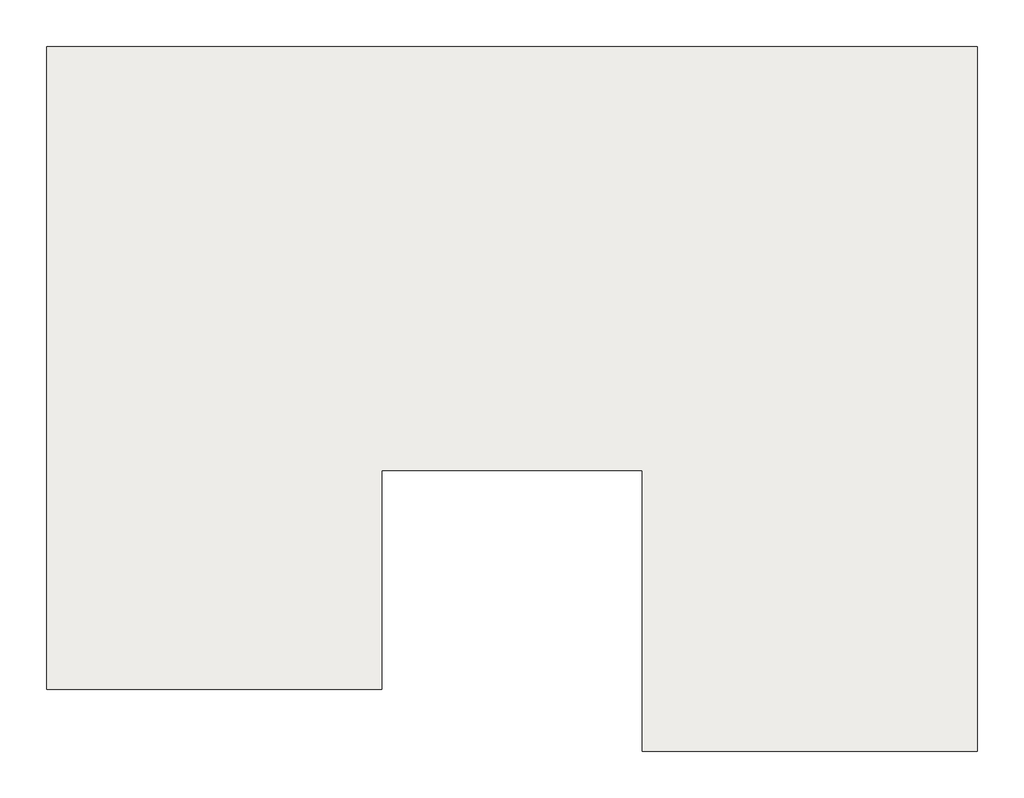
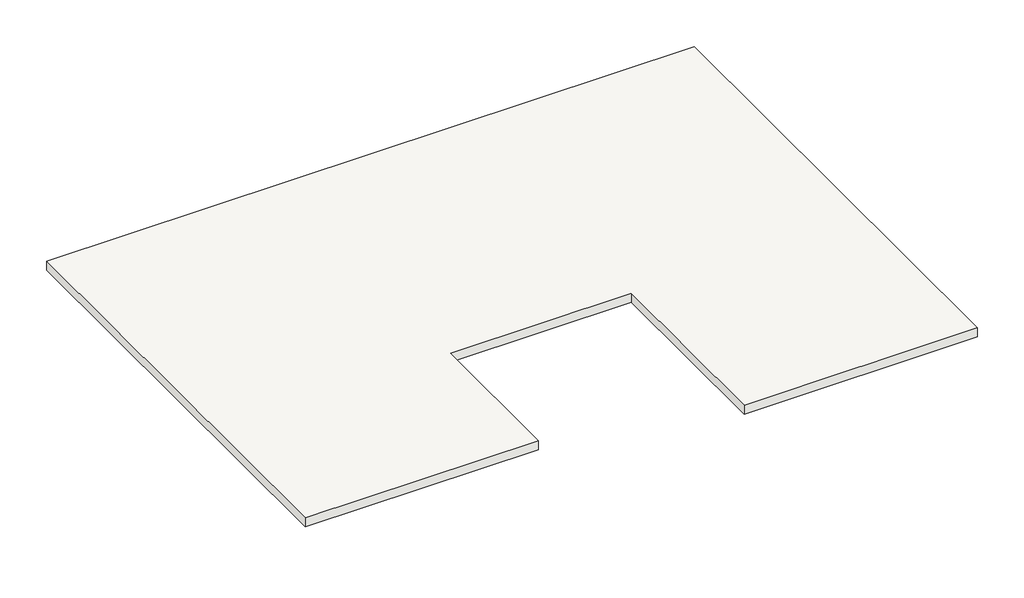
# One storey: 1 slab.
"""IFC4 building model written with IfcOpenShell, lengths in millimetres."""

from ifc_helpers import new_model, si_unit, frame, origin, place, context, project, spatial, polyline, outline, extrude, element, save

model = new_model("IFC4")

# Units and contexts
model_context = context("Model", 3, world=origin())
ifc_project = project(units=[si_unit("LENGTHUNIT", "METRE", prefix="MILLI")], contexts=[model_context])

# Site, building, storey
site = spatial("IfcSite", under=ifc_project)
building = spatial("IfcBuilding", under=site)
storey = spatial("IfcBuildingStorey", under=building, Name="标高 8", Elevation=21000.0)

# Slab
placement = place(None, origin())
element("IfcSlab", 1, ObjectType="屋顶", at=placement, inside=storey, context=model_context, shape_type="SweptSolid", body=[
    extrude(outline(polyline([(14218.2324742, 9763.3274984), (14218.2324742, -10836.6725016), (4418.2324742, -10836.6725016), (4418.2324742, -2636.6725016), (-3181.7675258, -2636.6725016), (-3181.7675258, -9036.6725016), (-12981.7675258, -9036.6725016), (-12981.7675258, 9763.3274984), (14218.2324742, 9763.3274984)])), frame((0.0, 0.0, 20600.0), z_axis=(0.0, 0.0, 1.0), x_axis=(1.0, 0.0, 0.0)), (0.0, 0.0, 1.0), 400.0),
])

save(model, "model.ifc")
